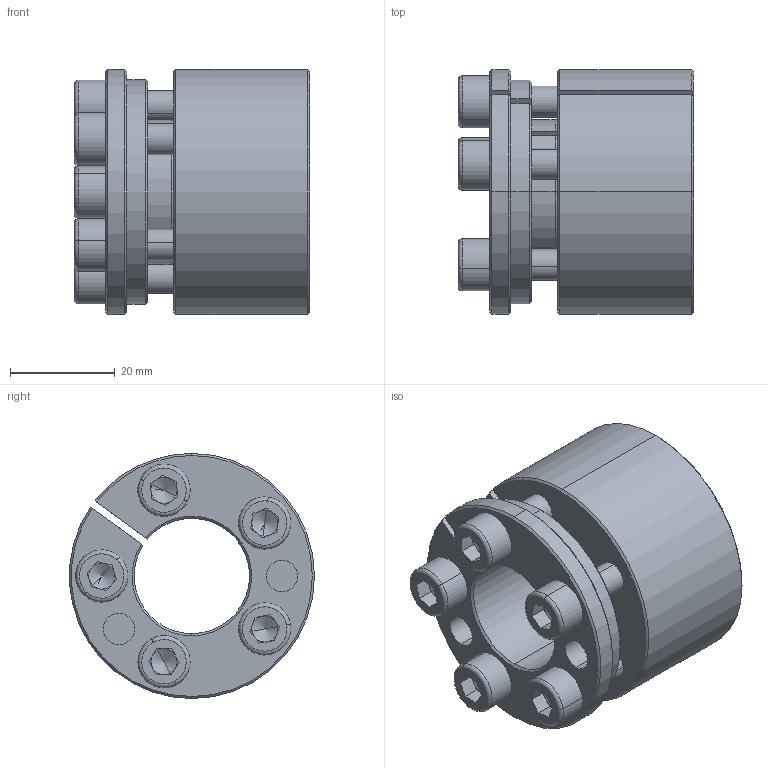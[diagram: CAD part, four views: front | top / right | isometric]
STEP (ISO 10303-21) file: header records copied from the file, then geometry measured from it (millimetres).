
FILE_DESCRIPTION (( 'STEP AP214' ), '1' );
FILE_NAME ('PL-H2 22-47.STEP', '2022-07-25T01:48:32', ( '' ), ( '' ), 'SwSTEP 2.0', 'SolidWorks 2022', '' );
FILE_SCHEMA (( 'AUTOMOTIVE_DESIGN' ));
Length unit declared in the file: millimetre
Products named in the file (1): PL-H2 22-47
Bounding box: 45 x 46.86 x 46.92 mm (x, y, z)
Volume: 44699.7 mm3; surface area: 18144.4 mm2
Topology: 1 solids, 1 shells, 208 faces, 511 edges, 315 vertices
Faces by surface type: plane 83, cylinder 59, cone 56, torus 10
Entity records: 6172 total; most frequent: DIRECTION 1132, CARTESIAN_POINT 1097, ORIENTED_EDGE 1002, EDGE_CURVE 501, AXIS2_PLACEMENT_3D 446, VERTEX_POINT 315, EDGE_LOOP 242, LINE 240
